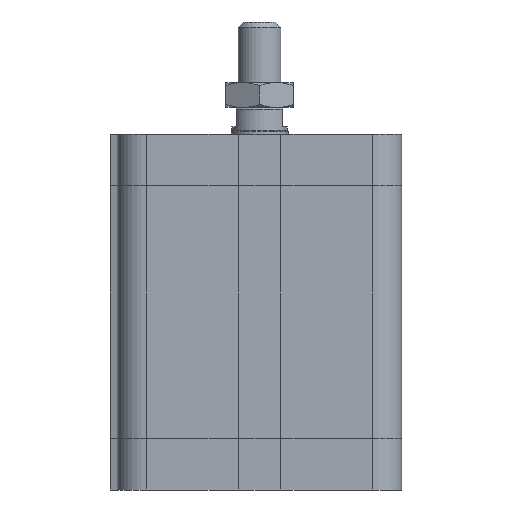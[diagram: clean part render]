
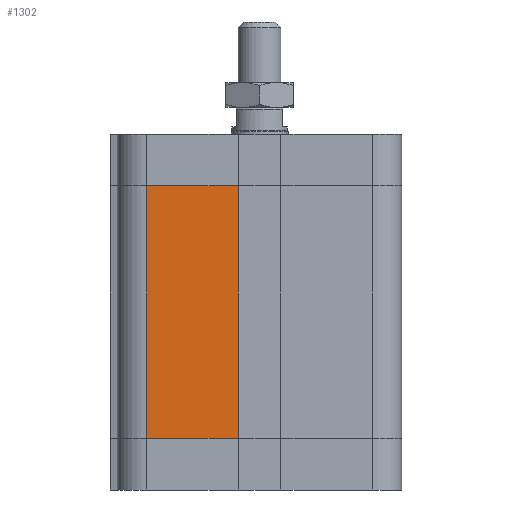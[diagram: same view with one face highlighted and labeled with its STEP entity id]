
A CAD part, left-side view. The second image highlights one B-rep face of the part: STEP entity #1302.
In plain terms, the highlighted planar face has unit normal (-1, 0, 0).
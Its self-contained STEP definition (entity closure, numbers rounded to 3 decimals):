
#1213=CARTESIAN_POINT('',(-40.,31.75,14.5));
#1214=VERTEX_POINT('',#1213);
#1222=CARTESIAN_POINT('',(-40.,31.75,85.5));
#1223=VERTEX_POINT('',#1222);
#1224=CARTESIAN_POINT('',(-40.,31.75,14.5));
#1225=DIRECTION('',(0.0,0.0,1.0));
#1226=VECTOR('',#1225,71.0);
#1227=LINE('',#1224,#1226);
#1228=EDGE_CURVE('',#1214,#1223,#1227,.T.);
#1272=CARTESIAN_POINT('',(-40.0,6.,0.0));
#1273=DIRECTION('',(-1.0,0.0,0.0));
#1274=DIRECTION('',(0.0,0.0,1.0));
#1275=AXIS2_PLACEMENT_3D('',#1272,#1273,#1274);
#1276=PLANE('',#1275);
#1277=CARTESIAN_POINT('',(-40.0,6.,14.5));
#1278=VERTEX_POINT('',#1277);
#1279=CARTESIAN_POINT('',(-40.,31.75,14.5));
#1280=DIRECTION('',(0.0,-1.0,0.0));
#1281=VECTOR('',#1280,25.75);
#1282=LINE('',#1279,#1281);
#1283=EDGE_CURVE('',#1214,#1278,#1282,.T.);
#1284=ORIENTED_EDGE('',*,*,#1283,.T.);
#1285=CARTESIAN_POINT('',(-40.0,6.,85.5));
#1286=VERTEX_POINT('',#1285);
#1287=CARTESIAN_POINT('',(-40.0,6.,14.5));
#1288=DIRECTION('',(0.0,0.0,1.0));
#1289=VECTOR('',#1288,71.0);
#1290=LINE('',#1287,#1289);
#1291=EDGE_CURVE('',#1278,#1286,#1290,.T.);
#1292=ORIENTED_EDGE('',*,*,#1291,.T.);
#1293=CARTESIAN_POINT('',(-40.,31.75,85.5));
#1294=DIRECTION('',(0.0,-1.0,0.0));
#1295=VECTOR('',#1294,25.75);
#1296=LINE('',#1293,#1295);
#1297=EDGE_CURVE('',#1223,#1286,#1296,.T.);
#1298=ORIENTED_EDGE('',*,*,#1297,.F.);
#1299=ORIENTED_EDGE('',*,*,#1228,.F.);
#1300=EDGE_LOOP('',(#1284,#1292,#1298,#1299));
#1301=FACE_OUTER_BOUND('',#1300,.T.);
#1302=ADVANCED_FACE('',(#1301),#1276,.T.);
